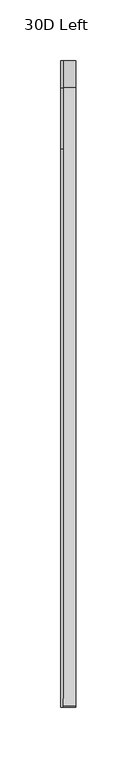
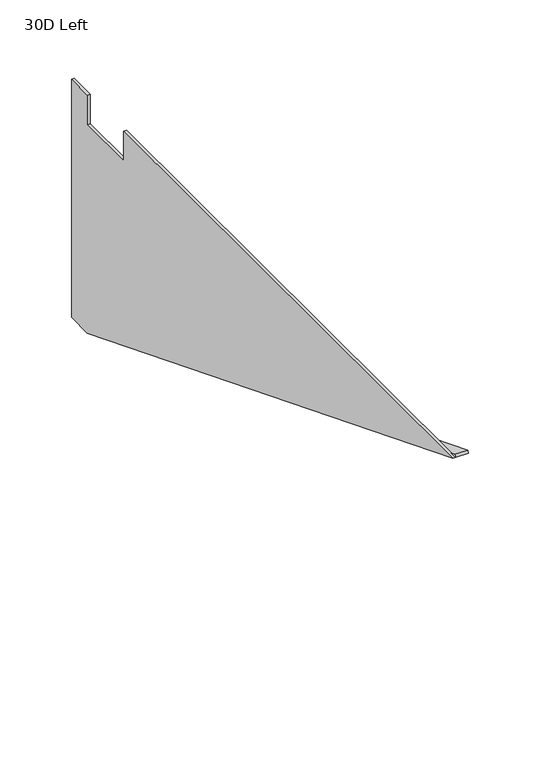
"""IFC4 building model written with IfcOpenShell, lengths in millimetres: furniture geometry, HermanMiller_Ethospace_E2393_WorkSurfaceSupport : 30D Left."""

import ifcopenshell
import ifcopenshell.guid

model = None  # the IFC model being written
_history = None  # IfcOwnerHistory: only IFC2X3 demands one
_inside = {}  # id of a spatial element -> (the spatial element, [elements in it])
_under = {}  # id of a project, library or spatial element -> (it, [spatial elements below it])
_declared = {}  # id of a project -> (the project, [libraries it declares])
_typed = {}  # id of a type object -> (the type object, [elements of that type])
_made_of = {}  # id of a material, layer set ... -> (it, [elements and type objects made of it])


def new_model(schema):
    """Start an empty IFC model of exactly this schema.

    Asked for "IFC4X3", IfcOpenShell would pick the latest addendum, in which some entities
    have other attributes; the version numbers below select the first issue.
    IFC2X3 requires an IfcOwnerHistory on every rooted entity: one is made here for all.
    """
    global model, _history
    if schema == "IFC4X3":
        model = ifcopenshell.file(schema_version=(4, 3, 0, 0))
    else:
        model = ifcopenshell.file(schema=schema)
    _inside.clear()
    _under.clear()
    _declared.clear()
    _typed.clear()
    _made_of.clear()
    _history = None
    if model.schema == "IFC2X3":
        org = make("IfcOrganization", Name="unknown")
        user = make(
            "IfcPersonAndOrganization",
            ThePerson=make("IfcPerson", FamilyName="unknown"),
            TheOrganization=org,
        )
        app = make(
            "IfcApplication",
            ApplicationDeveloper=org,
            Version="unknown",
            ApplicationFullName="unknown",
            ApplicationIdentifier="unknown",
        )
        _history = make(
            "IfcOwnerHistory",
            OwningUser=user,
            OwningApplication=app,
            ChangeAction="ADDED",
            CreationDate=0,
        )
    return model


def make(cls, **values):
    """One entity of the class cls with the attributes given. An attribute that is None is left unset."""
    return model.create_entity(
        cls, **{name: value for name, value in values.items() if value is not None}
    )


def rooted(cls, **values):
    """An entity with a GlobalId (a new one), such as an element, a storey or a relation."""
    return make(cls, GlobalId=ifcopenshell.guid.new(), OwnerHistory=_history, **values)


def si_unit(unit_type, name, prefix=None):
    """IfcSIUnit, for example si_unit("LENGTHUNIT", "METRE", prefix="MILLI")."""
    return make("IfcSIUnit", UnitType=unit_type, Prefix=prefix, Name=name)


def assignment(units):
    """IfcUnitAssignment: the units of a project."""
    return None if units is None else make("IfcUnitAssignment", Units=units)


def point(xyz):
    """IfcCartesianPoint."""
    return None if xyz is None else make("IfcCartesianPoint", Coordinates=xyz)


def direction(xyz):
    """IfcDirection."""
    return None if xyz is None else make("IfcDirection", DirectionRatios=xyz)


def frame(location, z_axis=None, x_axis=None):
    """IfcAxis2Placement3D, a coordinate frame: its origin and axes. An axis left out is left unset."""
    return make(
        "IfcAxis2Placement3D",
        Location=point(location),
        Axis=direction(z_axis),
        RefDirection=direction(x_axis),
    )


def origin():
    """The frame at (0, 0, 0) with its axes left unset."""
    return frame((0.0, 0.0, 0.0))


def place(relative_to, where):
    """IfcLocalPlacement: puts the frame where relative to a parent placement (None: the world)."""
    return make(
        "IfcLocalPlacement", PlacementRelTo=relative_to, RelativePlacement=where
    )


def context(
    kind, dimensions, precision=None, world=None, true_north=None, identifier=None
):
    """IfcGeometricRepresentationContext, for example the 3D "Model" context."""
    return make(
        "IfcGeometricRepresentationContext",
        ContextIdentifier=identifier,
        ContextType=kind,
        CoordinateSpaceDimension=dimensions,
        Precision=precision,
        WorldCoordinateSystem=world,
        TrueNorth=true_north,
    )


def project(units=None, contexts=None):
    """IfcProject with its units and contexts."""
    return rooted(
        "IfcProject",
        Name="project",
        RepresentationContexts=contexts,
        UnitsInContext=assignment(units),
    )


def spatial(cls, under=None, at=None, **own):
    """A site, building, storey or space (cls), placed at a placement, below another one or the project."""
    s = rooted(cls, ObjectPlacement=at, **own)
    if under is not None:
        _under.setdefault(under.id(), (under, []))[1].append(s)
    return s


def polyline(points):
    """IfcPolyline through the points."""
    return make("IfcPolyline", Points=[point(p) for p in points])


def outline(outer, holes=None, kind="AREA"):
    """IfcArbitraryClosedProfileDef: a profile drawn as a closed curve; with holes, ...WithVoids."""
    if holes is None:
        return make("IfcArbitraryClosedProfileDef", ProfileType=kind, OuterCurve=outer)
    return make(
        "IfcArbitraryProfileDefWithVoids",
        ProfileType=kind,
        OuterCurve=outer,
        InnerCurves=holes,
    )


def extrude(swept, where, along, depth):
    """IfcExtrudedAreaSolid: the profile swept, set in the frame where, extruded along a direction by depth."""
    return make(
        "IfcExtrudedAreaSolid",
        SweptArea=swept,
        Position=where,
        ExtrudedDirection=direction(along),
        Depth=depth,
    )


def shape(context_of_items, identifier, shape_type, items):
    """IfcShapeRepresentation: the items that make up one representation, for example the "Body"."""
    return make(
        "IfcShapeRepresentation",
        ContextOfItems=context_of_items,
        RepresentationIdentifier=identifier,
        RepresentationType=shape_type,
        Items=items,
    )


def source(mapping_origin, context_of_items, identifier, shape_type, items):
    """IfcRepresentationMap: a shape defined once, which mapped items show again and again."""
    return make(
        "IfcRepresentationMap",
        MappingOrigin=mapping_origin,
        MappedRepresentation=shape(context_of_items, identifier, shape_type, items),
    )


def transform(
    local_origin,
    x_axis=None,
    y_axis=None,
    z_axis=None,
    scale=None,
    scale2=None,
    scale3=None,
    uniform=True,
):
    """IfcCartesianTransformationOperator3D, or its non-uniform kind. x_axis, y_axis, z_axis: its Axis1, 2, 3."""
    if uniform:
        return make(
            "IfcCartesianTransformationOperator3D",
            Axis1=direction(x_axis),
            Axis2=direction(y_axis),
            LocalOrigin=point(local_origin),
            Scale=scale,
            Axis3=direction(z_axis),
        )
    return make(
        "IfcCartesianTransformationOperator3DnonUniform",
        Axis1=direction(x_axis),
        Axis2=direction(y_axis),
        LocalOrigin=point(local_origin),
        Scale=scale,
        Axis3=direction(z_axis),
        Scale2=scale2,
        Scale3=scale3,
    )


def mapped(mapping_source, mapping_target):
    """IfcMappedItem: shows the shape of a source again, moved by a transform."""
    return make(
        "IfcMappedItem", MappingSource=mapping_source, MappingTarget=mapping_target
    )


def made_of(thing, what):
    """Note that an element or type object is made of a material, layer set ...; save() writes the relation."""
    if what is not None:
        _made_of.setdefault(what.id(), (what, []))[1].append(thing)
    return thing


def element(
    cls,
    number,
    at=None,
    inside=None,
    cuts=None,
    type_object=None,
    material=None,
    context=None,
    identifier="Body",
    shape_type=None,
    held_by="IfcProductDefinitionShape",
    body=None,
    shapes=None,
    **own,
):
    """One element of the class cls, such as IfcWall. Its Tag is "e" and its number.

    at: its placement. inside: the storey or other place that contains it. cuts: it is an
    opening in that element (IfcRelVoidsElement). A single representation is given by context,
    identifier, shape_type and body (its items); several are given by shapes. held_by: the class
    of the entity that holds the representations. save() writes the other relations.
    """
    e = rooted(cls, Tag="e%d" % number, ObjectPlacement=at, **own)
    if body is not None:
        shapes = [shape(context, identifier, shape_type, body)]
    if shapes is not None:
        e.Representation = make(held_by, Representations=shapes)
    if inside is not None:
        _inside.setdefault(inside.id(), (inside, []))[1].append(e)
    if cuts is not None:
        rooted(
            "IfcRelVoidsElement", RelatingBuildingElement=cuts, RelatedOpeningElement=e
        )
    if type_object is not None:
        _typed.setdefault(type_object.id(), (type_object, []))[1].append(e)
    return made_of(e, material)


def aggregate(whole, parts):
    """IfcRelAggregates: a whole, such as a stair, and the parts it consists of."""
    return rooted("IfcRelAggregates", RelatingObject=whole, RelatedObjects=parts)


def save(model, path):
    """Write the relations noted so far, then the file.

    IfcRelAggregates (storeys below a building ...), IfcRelContainedInSpatialStructure (elements
    in a storey), IfcRelDefinesByType, IfcRelAssociatesMaterial and IfcRelDeclares: one each for
    every whole, place, type object, material and project.
    """
    for whole, parts in _under.values():
        aggregate(whole, parts)
    for where, things in _inside.values():
        rooted(
            "IfcRelContainedInSpatialStructure",
            RelatedElements=things,
            RelatingStructure=where,
        )
    for kind, things in _typed.values():
        rooted("IfcRelDefinesByType", RelatedObjects=things, RelatingType=kind)
    for what, things in _made_of.values():
        rooted("IfcRelAssociatesMaterial", RelatedObjects=things, RelatingMaterial=what)
    for by, libraries in _declared.values():
        rooted("IfcRelDeclares", RelatingContext=by, RelatedDefinitions=libraries)
    model.write(path)


def furniture_30d_left_232e12f7(model_context):
    return source(origin(), model_context, "Body", "SweptSolid", [
        extrude(outline(polyline([(254.0, 505.5235), (254.0, 503.2375), (231.775, 503.2375), (-279.6807823, 706.4375), (-278.8367354, 708.5619719), (232.2124796, 505.5235), (254.0, 505.5235)])), frame((2.286, 0.0, 0.0), z_axis=(1.0, 0.0, 0.0), x_axis=(0.0, 1.0, 0.0)), (0.0, 0.0, 1.0), 10.414),
        extrude(outline(polyline([(254.0, 706.4375), (254.0, 503.2375), (231.775, 503.2375), (-279.6807823, 706.4375), (180.975, 706.4375), (180.975, 681.0375), (231.775, 681.0375), (231.775, 706.4375), (254.0, 706.4375)])), frame((0.0, 0.0, 0.0), z_axis=(1.0, 0.0, 0.0), x_axis=(0.0, 1.0, 0.0)), (0.0, 0.0, 1.0), 2.286),
    ])


if __name__ == "__main__":
    model = new_model("IFC4")
    model_context = context("Model", 3, world=origin())
    ifc_project = project(units=[si_unit("LENGTHUNIT", "METRE", prefix="MILLI")], contexts=[model_context])
    site = spatial("IfcSite", under=ifc_project)
    building = spatial("IfcBuilding", under=site)
    placement = place(None, origin())
    furniture_30d_left_shape = furniture_30d_left_232e12f7(model_context)
    element("IfcFurniture", 1, ObjectType="HermanMiller_Ethospace_E2393_WorkSurfaceSupport : 30D Left", at=placement, inside=building, context=model_context, shape_type="MappedRepresentation", body=[
        mapped(furniture_30d_left_shape, transform((0.0, 0.0, 0.0), x_axis=(1.0, 0.0, 0.0), y_axis=(0.0, 1.0, 0.0), z_axis=(0.0, 0.0, 1.0))),
    ])
    save(model, "model.ifc")
